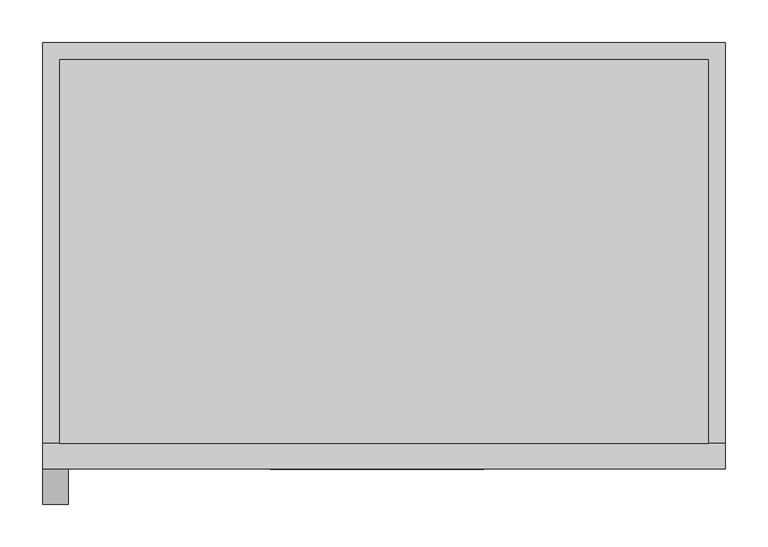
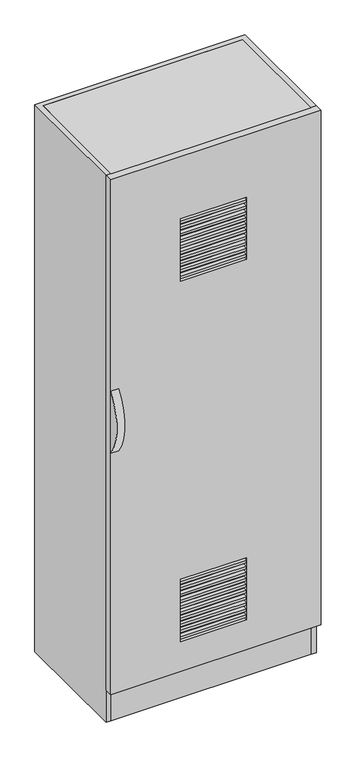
"""IFC4 building model written with IfcOpenShell, lengths in millimetres: furniture geometry, Armario Instalaciones : 800 x 450 x 2200 vermell."""

from ifc_helpers import new_model, si_unit, point, frame, frame_2d, origin, origin_with_axes, place, context, project, spatial, polyline, circle_curve, trimmed, segment, composite_curve, outline, extrude, source, transform, mapped, element, save


def furniture_9596634d(model_context):
    return source(origin(), model_context, "Body", "SweptSolid", [
        extrude(outline(polyline([(388.3182922, 30.0), (-371.6817078, 30.0), (-371.6817078, 50.0), (388.3182922, 50.0), (388.3182922, 30.0)])), origin_with_axes(), (0.0, 0.0, 1.0), 130.0),
        extrude(outline(composite_curve([segment(trimmed(circle_curve(frame_2d((164.9755874, 1225.0)), 206.9829568), [point((0.0, 1100.0))], [point((0.0, 1350.0))], False, "CARTESIAN"), True, "CONTINUOUS"), segment(polyline([(0.0, 1350.0), (0.0, 1100.0)]), True, "CONTINUOUS")], self_intersect=False)), frame((-391.6817078, 0.0, 0.0), z_axis=(1.0, 0.0, 0.0), x_axis=(0.0, 1.0, 0.0)), (0.0, 0.0, 1.0), 30.0),
        extrude(outline(polyline([(125.0, 0.0), (-125.0, 0.0), (-125.0, 15.0), (125.0, 15.0), (125.0, 0.0)])), frame((0.0, 0.0, 284.4444444), z_axis=(0.0, 0.0, 1.0), x_axis=(1.0, 0.0, 0.0)), (0.0, 0.0, 1.0), 10.0),
        extrude(outline(polyline([(125.0, 0.0), (-125.0, 0.0), (-125.0, 15.0), (125.0, 15.0), (125.0, 0.0)])), frame((0.0, 0.0, 308.8888889), z_axis=(0.0, 0.0, 1.0), x_axis=(1.0, 0.0, 0.0)), (0.0, 0.0, 1.0), 10.0),
        extrude(outline(polyline([(125.0, 0.0), (-125.0, 0.0), (-125.0, 15.0), (125.0, 15.0), (125.0, 0.0)])), frame((0.0, 0.0, 333.3333333), z_axis=(0.0, 0.0, 1.0), x_axis=(1.0, 0.0, 0.0)), (0.0, 0.0, 1.0), 10.0),
        extrude(outline(polyline([(125.0, 0.0), (-125.0, 0.0), (-125.0, 15.0), (125.0, 15.0), (125.0, 0.0)])), frame((0.0, 0.0, 357.7777778), z_axis=(0.0, 0.0, 1.0), x_axis=(1.0, 0.0, 0.0)), (0.0, 0.0, 1.0), 10.0),
        extrude(outline(polyline([(125.0, 0.0), (-125.0, 0.0), (-125.0, 15.0), (125.0, 15.0), (125.0, 0.0)])), frame((0.0, 0.0, 382.2222222), z_axis=(0.0, 0.0, 1.0), x_axis=(1.0, 0.0, 0.0)), (0.0, 0.0, 1.0), 10.0),
        extrude(outline(polyline([(125.0, 0.0), (-125.0, 0.0), (-125.0, 15.0), (125.0, 15.0), (125.0, 0.0)])), frame((0.0, 0.0, 406.6666667), z_axis=(0.0, 0.0, 1.0), x_axis=(1.0, 0.0, 0.0)), (0.0, 0.0, 1.0), 10.0),
        extrude(outline(polyline([(125.0, 0.0), (-125.0, 0.0), (-125.0, 15.0), (125.0, 15.0), (125.0, 0.0)])), frame((0.0, 0.0, 431.1111111), z_axis=(0.0, 0.0, 1.0), x_axis=(1.0, 0.0, 0.0)), (0.0, 0.0, 1.0), 10.0),
        extrude(outline(polyline([(125.0, 0.0), (-125.0, 0.0), (-125.0, 15.0), (125.0, 15.0), (125.0, 0.0)])), frame((0.0, 0.0, 455.5555556), z_axis=(0.0, 0.0, 1.0), x_axis=(1.0, 0.0, 0.0)), (0.0, 0.0, 1.0), 10.0),
        extrude(outline(polyline([(125.0, 0.0), (-125.0, 0.0), (-125.0, 15.0), (125.0, 15.0), (125.0, 0.0)])), frame((0.0, 0.0, 260.0), z_axis=(0.0, 0.0, 1.0), x_axis=(1.0, 0.0, 0.0)), (0.0, 0.0, 1.0), 10.0),
        extrude(outline(polyline([(125.0, 0.0), (-125.0, 0.0), (-125.0, 15.0), (125.0, 15.0), (125.0, 0.0)])), frame((0.0, 0.0, 480.0), z_axis=(0.0, 0.0, 1.0), x_axis=(1.0, 0.0, 0.0)), (0.0, 0.0, 1.0), 10.0),
        extrude(outline(polyline([(125.0, 0.0), (-125.0, 0.0), (-125.0, 15.0), (125.0, 15.0), (125.0, 0.0)])), frame((0.0, 0.0, 1734.4444444), z_axis=(0.0, 0.0, 1.0), x_axis=(1.0, 0.0, 0.0)), (0.0, 0.0, 1.0), 10.0),
        extrude(outline(polyline([(125.0, 0.0), (-125.0, 0.0), (-125.0, 15.0), (125.0, 15.0), (125.0, 0.0)])), frame((0.0, 0.0, 1758.8888889), z_axis=(0.0, 0.0, 1.0), x_axis=(1.0, 0.0, 0.0)), (0.0, 0.0, 1.0), 10.0),
        extrude(outline(polyline([(125.0, 0.0), (-125.0, 0.0), (-125.0, 15.0), (125.0, 15.0), (125.0, 0.0)])), frame((0.0, 0.0, 1783.3333333), z_axis=(0.0, 0.0, 1.0), x_axis=(1.0, 0.0, 0.0)), (0.0, 0.0, 1.0), 10.0),
        extrude(outline(polyline([(125.0, 0.0), (-125.0, 0.0), (-125.0, 15.0), (125.0, 15.0), (125.0, 0.0)])), frame((0.0, 0.0, 1807.7777778), z_axis=(0.0, 0.0, 1.0), x_axis=(1.0, 0.0, 0.0)), (0.0, 0.0, 1.0), 10.0),
        extrude(outline(polyline([(125.0, 0.0), (-125.0, 0.0), (-125.0, 15.0), (125.0, 15.0), (125.0, 0.0)])), frame((0.0, 0.0, 1832.2222222), z_axis=(0.0, 0.0, 1.0), x_axis=(1.0, 0.0, 0.0)), (0.0, 0.0, 1.0), 10.0),
        extrude(outline(polyline([(125.0, 0.0), (-125.0, 0.0), (-125.0, 15.0), (125.0, 15.0), (125.0, 0.0)])), frame((0.0, 0.0, 1856.6666667), z_axis=(0.0, 0.0, 1.0), x_axis=(1.0, 0.0, 0.0)), (0.0, 0.0, 1.0), 10.0),
        extrude(outline(polyline([(125.0, 0.0), (-125.0, 0.0), (-125.0, 15.0), (125.0, 15.0), (125.0, 0.0)])), frame((0.0, 0.0, 1881.1111111), z_axis=(0.0, 0.0, 1.0), x_axis=(1.0, 0.0, 0.0)), (0.0, 0.0, 1.0), 10.0),
        extrude(outline(polyline([(125.0, 0.0), (-125.0, 0.0), (-125.0, 15.0), (125.0, 15.0), (125.0, 0.0)])), frame((0.0, 0.0, 1905.5555556), z_axis=(0.0, 0.0, 1.0), x_axis=(1.0, 0.0, 0.0)), (0.0, 0.0, 1.0), 10.0),
        extrude(outline(polyline([(125.0, 0.0), (-125.0, 0.0), (-125.0, 15.0), (125.0, 15.0), (125.0, 0.0)])), frame((0.0, 0.0, 1710.0), z_axis=(0.0, 0.0, 1.0), x_axis=(1.0, 0.0, 0.0)), (0.0, 0.0, 1.0), 10.0),
        extrude(outline(polyline([(125.0, 0.0), (-125.0, 0.0), (-125.0, 15.0), (125.0, 15.0), (125.0, 0.0)])), frame((0.0, 0.0, 1930.0), z_axis=(0.0, 0.0, 1.0), x_axis=(1.0, 0.0, 0.0)), (0.0, 0.0, 1.0), 10.0),
        extrude(outline(polyline([(388.3182922, 480.0), (388.3182922, 30.0), (-371.6817078, 30.0), (-371.6817078, 480.0), (388.3182922, 480.0)])), frame((0.0, 0.0, 2180.0), z_axis=(0.0, 0.0, 1.0), x_axis=(1.0, 0.0, 0.0)), (0.0, 0.0, 1.0), 20.0),
        extrude(outline(polyline([(2200.0, 408.3182922), (2200.0, -391.6817078), (130.0, -391.6817078), (130.0, 408.3182922), (2200.0, 408.3182922)]), holes=[polyline([(500.0, 125.0), (250.0, 125.0), (250.0, -125.0), (500.0, -125.0), (500.0, 125.0)]), polyline([(1950.0, 125.0), (1700.0, 125.0), (1700.0, -125.0), (1950.0, -125.0), (1950.0, 125.0)])]), frame((0.0, 0.0, 0.0), z_axis=(0.0, 1.0, 0.0), x_axis=(0.0, 0.0, 1.0)), (0.0, 0.0, 1.0), 30.0),
        extrude(outline(polyline([(408.3182922, 500.0), (408.3182922, 30.0), (388.3182922, 30.0), (388.3182922, 480.0), (-371.6817078, 480.0), (-371.6817078, 30.0), (-391.6817078, 30.0), (-391.6817078, 500.0), (408.3182922, 500.0)])), origin_with_axes(), (0.0, 0.0, 1.0), 2200.0),
    ])


if __name__ == "__main__":
    model = new_model("IFC4")
    model_context = context("Model", 3, world=origin())
    ifc_project = project(units=[si_unit("LENGTHUNIT", "METRE", prefix="MILLI")], contexts=[model_context])
    site = spatial("IfcSite", under=ifc_project)
    building = spatial("IfcBuilding", under=site)
    placement = place(None, origin())
    furniture_shape = furniture_9596634d(model_context)
    element("IfcFurniture", 1, ObjectType="Armario Instalaciones : 800 x 450 x 2200 vermell", at=placement, inside=building, context=model_context, shape_type="MappedRepresentation", body=[
        mapped(furniture_shape, transform((0.0, 0.0, 0.0), x_axis=(1.0, 0.0, 0.0), y_axis=(0.0, 1.0, 0.0), z_axis=(0.0, 0.0, 1.0))),
    ])
    save(model, "model.ifc")
